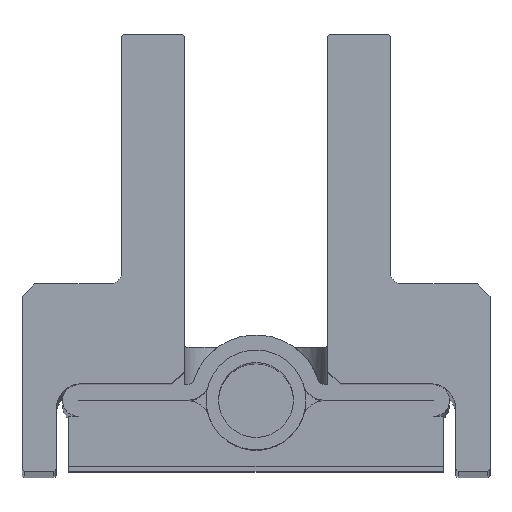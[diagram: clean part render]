
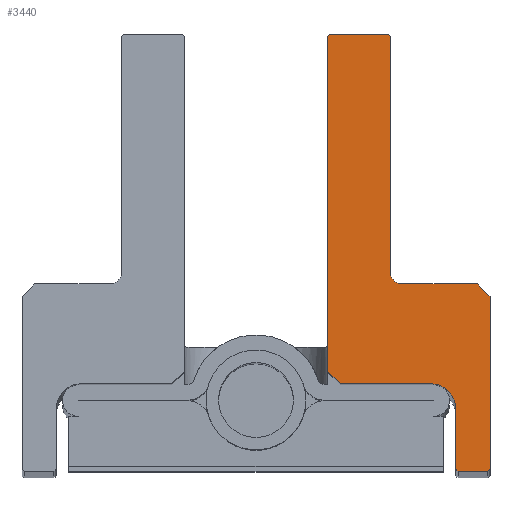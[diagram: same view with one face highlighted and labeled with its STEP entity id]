
A CAD part, top view. The second image highlights one B-rep face of the part: STEP entity #3440.
In plain terms, the highlighted planar face has unit normal (0, 0, 1).
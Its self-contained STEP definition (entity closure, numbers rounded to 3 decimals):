
#107=LINE('',#5287,#329);
#116=LINE('',#5308,#338);
#129=LINE('',#5345,#351);
#133=LINE('',#5355,#355);
#141=LINE('',#5375,#363);
#142=LINE('',#5377,#364);
#143=LINE('',#5397,#365);
#144=LINE('',#5399,#366);
#145=LINE('',#5401,#367);
#146=LINE('',#5402,#368);
#329=VECTOR('',#4239,2.35);
#338=VECTOR('',#4258,4.8);
#351=VECTOR('',#4301,4.6);
#355=VECTOR('',#4311,6.);
#363=VECTOR('',#4333,13.8);
#364=VECTOR('',#4336,1.414);
#365=VECTOR('',#4359,1.414);
#366=VECTOR('',#4360,7.25);
#367=VECTOR('',#4363,18.8);
#368=VECTOR('',#4364,26.8);
#620=PLANE('',#3726);
#853=FACE_OUTER_BOUND('',#1083,.T.);
#1083=EDGE_LOOP('',(#2543,#2544,#2545,#2546,#2547,#2548,#2549,#2550,#2551,
#2552,#2553,#2554,#2555,#2556,#2557,#2558));
#1361=CIRCLE('',#3688,0.2);
#1362=CIRCLE('',#3691,0.2);
#1367=CIRCLE('',#3703,0.2);
#1368=CIRCLE('',#3706,0.2);
#1369=CIRCLE('',#3709,1.);
#1377=CIRCLE('',#3727,2.);
#1604=VERTEX_POINT('',#5283);
#1605=VERTEX_POINT('',#5285);
#1610=VERTEX_POINT('',#5301);
#1611=VERTEX_POINT('',#5305);
#1612=VERTEX_POINT('',#5307);
#1619=VERTEX_POINT('',#5337);
#1620=VERTEX_POINT('',#5339);
#1621=VERTEX_POINT('',#5343);
#1622=VERTEX_POINT('',#5347);
#1623=VERTEX_POINT('',#5351);
#1624=VERTEX_POINT('',#5353);
#1625=VERTEX_POINT('',#5357);
#1629=VERTEX_POINT('',#5373);
#1636=VERTEX_POINT('',#5395);
#1637=VERTEX_POINT('',#5396);
#1638=VERTEX_POINT('',#5398);
#1943=EDGE_CURVE('',#1604,#1605,#107,.T.);
#1951=EDGE_CURVE('',#1610,#1605,#1361,.T.);
#1953=EDGE_CURVE('',#1612,#1611,#116,.T.);
#1955=EDGE_CURVE('',#1604,#1611,#1362,.T.);
#1969=EDGE_CURVE('',#1619,#1620,#1367,.T.);
#1972=EDGE_CURVE('',#1621,#1620,#129,.T.);
#1973=EDGE_CURVE('',#1621,#1622,#1368,.T.);
#1977=EDGE_CURVE('',#1623,#1624,#133,.T.);
#1978=EDGE_CURVE('',#1625,#1624,#1369,.T.);
#1987=EDGE_CURVE('',#1610,#1629,#141,.T.);
#1988=EDGE_CURVE('',#1623,#1629,#142,.T.);
#1995=EDGE_CURVE('',#1636,#1637,#143,.T.);
#1996=EDGE_CURVE('',#1637,#1638,#144,.T.);
#1997=EDGE_CURVE('',#1612,#1638,#1377,.T.);
#1998=EDGE_CURVE('',#1625,#1622,#145,.T.);
#1999=EDGE_CURVE('',#1619,#1636,#146,.T.);
#2543=ORIENTED_EDGE('',*,*,#1995,.T.);
#2544=ORIENTED_EDGE('',*,*,#1996,.T.);
#2545=ORIENTED_EDGE('',*,*,#1997,.F.);
#2546=ORIENTED_EDGE('',*,*,#1953,.T.);
#2547=ORIENTED_EDGE('',*,*,#1955,.F.);
#2548=ORIENTED_EDGE('',*,*,#1943,.T.);
#2549=ORIENTED_EDGE('',*,*,#1951,.F.);
#2550=ORIENTED_EDGE('',*,*,#1987,.T.);
#2551=ORIENTED_EDGE('',*,*,#1988,.F.);
#2552=ORIENTED_EDGE('',*,*,#1977,.T.);
#2553=ORIENTED_EDGE('',*,*,#1978,.F.);
#2554=ORIENTED_EDGE('',*,*,#1998,.T.);
#2555=ORIENTED_EDGE('',*,*,#1973,.F.);
#2556=ORIENTED_EDGE('',*,*,#1972,.T.);
#2557=ORIENTED_EDGE('',*,*,#1969,.F.);
#2558=ORIENTED_EDGE('',*,*,#1999,.T.);
#3440=ADVANCED_FACE('',(#853),#620,.T.);
#3688=AXIS2_PLACEMENT_3D('',#5303,#4253,#4254);
#3691=AXIS2_PLACEMENT_3D('',#5311,#4262,#4263);
#3703=AXIS2_PLACEMENT_3D('',#5340,#4295,#4296);
#3706=AXIS2_PLACEMENT_3D('',#5348,#4304,#4305);
#3709=AXIS2_PLACEMENT_3D('',#5358,#4314,#4315);
#3726=AXIS2_PLACEMENT_3D('',#5394,#4357,#4358);
#3727=AXIS2_PLACEMENT_3D('',#5400,#4361,#4362);
#4239=DIRECTION('',(1.,0.,0.));
#4253=DIRECTION('center_axis',(0.,0.,-1.));
#4254=DIRECTION('ref_axis',(0.707,-0.707,0.));
#4258=DIRECTION('',(0.,-1.,0.));
#4262=DIRECTION('center_axis',(0.,0.,-1.));
#4263=DIRECTION('ref_axis',(-0.707,-0.707,0.));
#4295=DIRECTION('center_axis',(0.,0.,-1.));
#4296=DIRECTION('ref_axis',(-0.707,0.707,0.));
#4301=DIRECTION('',(-1.,0.,0.));
#4304=DIRECTION('center_axis',(0.,0.,-1.));
#4305=DIRECTION('ref_axis',(0.707,0.707,0.));
#4311=DIRECTION('',(-1.,0.,0.));
#4314=DIRECTION('center_axis',(0.,0.,1.));
#4315=DIRECTION('ref_axis',(-0.707,-0.707,0.));
#4333=DIRECTION('',(0.,1.,0.));
#4336=DIRECTION('',(0.707,-0.707,0.));
#4357=DIRECTION('center_axis',(0.,0.,1.));
#4358=DIRECTION('ref_axis',(1.,0.,0.));
#4359=DIRECTION('',(0.707,-0.707,0.));
#4360=DIRECTION('',(1.,0.,0.));
#4361=DIRECTION('center_axis',(0.,0.,1.));
#4362=DIRECTION('ref_axis',(0.707,0.707,0.));
#4363=DIRECTION('',(0.,1.,0.));
#4364=DIRECTION('',(0.,-1.,0.));
#5283=CARTESIAN_POINT('',(16.2,-16.,25.));
#5285=CARTESIAN_POINT('',(18.55,-16.,25.));
#5287=CARTESIAN_POINT('',(16.,-16.,25.));
#5301=CARTESIAN_POINT('',(18.75,-15.8,25.));
#5303=CARTESIAN_POINT('Origin',(18.55,-15.8,25.));
#5305=CARTESIAN_POINT('',(16.,-15.8,25.));
#5307=CARTESIAN_POINT('',(16.,-11.,25.));
#5308=CARTESIAN_POINT('',(16.,-9.,25.));
#5311=CARTESIAN_POINT('Origin',(16.2,-15.8,25.));
#5337=CARTESIAN_POINT('',(5.75,18.8,25.));
#5339=CARTESIAN_POINT('',(5.95,19.,25.));
#5340=CARTESIAN_POINT('Origin',(5.95,18.8,25.));
#5343=CARTESIAN_POINT('',(10.55,19.,25.));
#5345=CARTESIAN_POINT('',(10.75,19.,25.));
#5347=CARTESIAN_POINT('',(10.75,18.8,25.));
#5348=CARTESIAN_POINT('Origin',(10.55,18.8,25.));
#5351=CARTESIAN_POINT('',(17.75,-1.,25.));
#5353=CARTESIAN_POINT('',(11.75,-1.,25.));
#5355=CARTESIAN_POINT('',(18.75,-1.,25.));
#5357=CARTESIAN_POINT('',(10.75,0.,25.));
#5358=CARTESIAN_POINT('Origin',(11.75,0.,25.));
#5373=CARTESIAN_POINT('',(18.75,-2.,25.));
#5375=CARTESIAN_POINT('',(18.75,-16.,25.));
#5377=CARTESIAN_POINT('',(13.332,3.418,25.));
#5394=CARTESIAN_POINT('Origin',(0.,-0.077,
25.));
#5395=CARTESIAN_POINT('',(5.75,-8.,25.));
#5396=CARTESIAN_POINT('',(6.75,-9.,25.));
#5397=CARTESIAN_POINT('',(2.832,-5.082,25.));
#5398=CARTESIAN_POINT('',(14.,-9.,25.));
#5399=CARTESIAN_POINT('',(-16.,-9.,25.));
#5400=CARTESIAN_POINT('Origin',(14.,-11.,25.));
#5401=CARTESIAN_POINT('',(10.75,-1.,25.));
#5402=CARTESIAN_POINT('',(5.75,-4.538,25.));
